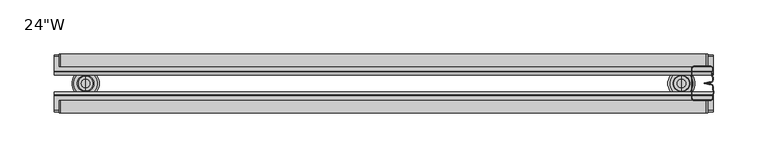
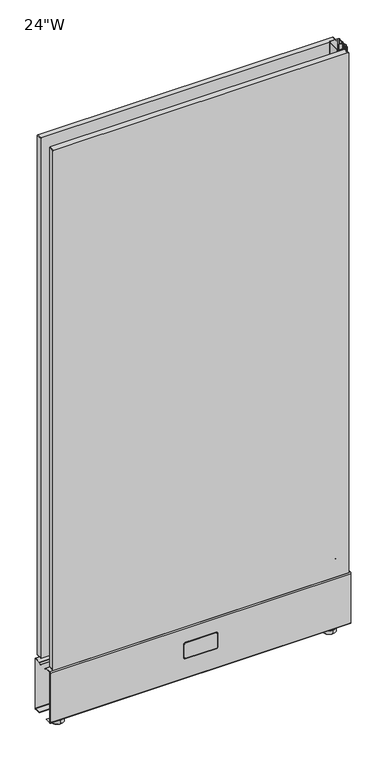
"""IFC4 building model written with IfcOpenShell, lengths in millimetres: furniture geometry."""

from ifc_helpers import new_model, si_unit, point, frame, frame_2d, origin, place, context, project, spatial, polyline, circle_curve, trimmed, segment, composite_curve, outline, extrude, source, transform, mapped, element, save
from ifc_brep_helpers import plane_surface, cylinder_surface, revolved_surface, advanced_brep


def furniture_e1f2ad61(model_context):
    return source(origin(), model_context, "Body", "SolidModel", [
        extrude(outline(composite_curve([segment(trimmed(circle_curve(frame_2d((133.8403843, 603.5740343)), 1.2634657), [point((132.5769186, 603.5740343))], [point((133.8403843, 604.8375))], False, "CARTESIAN"), True, "CONTINUOUS"), segment(polyline([(133.8403843, 604.8375), (1245.2602242, 604.8375)]), True, "CONTINUOUS"), segment(trimmed(circle_curve(frame_2d((1245.2602242, 602.9941949)), 1.8433051), [point((1245.2602242, 604.8375))], [point((1247.1035294, 602.9941949))], False, "CARTESIAN"), True, "CONTINUOUS"), segment(polyline([(1247.1035294, 602.9941949), (1247.1035294, 6.3370556)]), True, "CONTINUOUS"), segment(trimmed(circle_curve(frame_2d((1245.4908737, 6.3370556)), 1.6126556), [point((1247.1035294, 6.3370556))], [point((1245.4908737, 4.7243999))], False, "CARTESIAN"), True, "CONTINUOUS"), segment(polyline([(1245.4908737, 4.7243999), (134.0795596, 4.7243999)]), True, "CONTINUOUS"), segment(trimmed(circle_curve(frame_2d((134.0795596, 6.227041)), 1.5026411), [point((134.0795596, 4.7243999))], [point((132.5769186, 6.227041))], False, "CARTESIAN"), True, "CONTINUOUS"), segment(polyline([(132.5769186, 6.227041), (132.5769186, 603.5740343)]), True, "CONTINUOUS")], self_intersect=False)), frame((0.0, -55.9658582, 0.0), z_axis=(0.0, 1.0, 0.0), x_axis=(0.0, 0.0, 1.0)), (0.0, 0.0, 1.0), 11.5108241),
        extrude(outline(composite_curve([segment(trimmed(circle_curve(frame_2d((133.8403843, 603.5740343)), 1.2634657), [point((132.5769186, 603.5740343))], [point((133.8403843, 604.8375))], False, "CARTESIAN"), True, "CONTINUOUS"), segment(polyline([(133.8403843, 604.8375), (1245.2602242, 604.8375)]), True, "CONTINUOUS"), segment(trimmed(circle_curve(frame_2d((1245.2602242, 602.9941949)), 1.8433051), [point((1245.2602242, 604.8375))], [point((1247.1035294, 602.9941949))], False, "CARTESIAN"), True, "CONTINUOUS"), segment(polyline([(1247.1035294, 602.9941949), (1247.1035294, 6.3370556)]), True, "CONTINUOUS"), segment(trimmed(circle_curve(frame_2d((1245.4908737, 6.3370556)), 1.6126556), [point((1247.1035294, 6.3370556))], [point((1245.4908737, 4.7243999))], False, "CARTESIAN"), True, "CONTINUOUS"), segment(polyline([(1245.4908737, 4.7243999), (134.0795596, 4.7243999)]), True, "CONTINUOUS"), segment(trimmed(circle_curve(frame_2d((134.0795596, 6.227041)), 1.5026411), [point((134.0795596, 4.7243999))], [point((132.5769186, 6.227041))], False, "CARTESIAN"), True, "CONTINUOUS"), segment(polyline([(132.5769186, 6.227041), (132.5769186, 603.5740343)]), True, "CONTINUOUS")], self_intersect=False)), frame((0.0, -12.8443241, 0.0), z_axis=(0.0, 1.0, 0.0), x_axis=(0.0, 0.0, 1.0)), (0.0, 0.0, 1.0), 11.5108241),
        extrude(outline(composite_curve([segment(trimmed(circle_curve(frame_2d((94.8528373, 273.6849691)), 3.175), [point((98.0278373, 273.6849691))], [point((94.8528373, 270.5099691))], False, "CARTESIAN"), True, "CONTINUOUS"), segment(polyline([(94.8528373, 270.5099691), (66.2778343, 270.5099691)]), True, "CONTINUOUS"), segment(trimmed(circle_curve(frame_2d((66.2778343, 273.6849691)), 3.175), [point((66.2778343, 270.5099691))], [point((63.1028343, 273.6849691))], False, "CARTESIAN"), True, "CONTINUOUS"), segment(polyline([(63.1028343, 273.6849691), (63.1028343, 335.9149945)]), True, "CONTINUOUS"), segment(trimmed(circle_curve(frame_2d((66.2778343, 335.9149945)), 3.175), [point((63.1028343, 335.9149945))], [point((66.2778343, 339.0899945))], False, "CARTESIAN"), True, "CONTINUOUS"), segment(polyline([(66.2778343, 339.0899945), (94.8528373, 339.0899945)]), True, "CONTINUOUS"), segment(trimmed(circle_curve(frame_2d((94.8528373, 335.9149945)), 3.175), [point((94.8528373, 339.0899945))], [point((98.0278373, 335.9149945))], False, "CARTESIAN"), True, "CONTINUOUS"), segment(polyline([(98.0278373, 335.9149945), (98.0278373, 273.6849691)]), True, "CONTINUOUS")], self_intersect=False), holes=[composite_curve([segment(trimmed(circle_curve(frame_2d((66.2778343, 335.9149945)), 2.38125), [point((66.2778343, 338.2962445))], [point((63.8965843, 335.9149945))], True, "CARTESIAN"), True, "CONTINUOUS"), segment(polyline([(63.8965843, 335.9149945), (63.8965843, 273.6849691)]), True, "CONTINUOUS"), segment(trimmed(circle_curve(frame_2d((66.2778343, 273.6849691)), 2.38125), [point((63.8965843, 273.6849691))], [point((66.2778343, 271.3037191))], True, "CARTESIAN"), True, "CONTINUOUS"), segment(polyline([(66.2778343, 271.3037191), (94.8528373, 271.3037191)]), True, "CONTINUOUS"), segment(trimmed(circle_curve(frame_2d((94.8528373, 273.6849691)), 2.38125), [point((94.8528373, 271.3037191))], [point((97.2340873, 273.6849691))], True, "CARTESIAN"), True, "CONTINUOUS"), segment(polyline([(97.2340873, 273.6849691), (97.2340873, 335.9149945)]), True, "CONTINUOUS"), segment(trimmed(circle_curve(frame_2d((94.8528373, 335.9149945)), 2.38125), [point((97.2340873, 335.9149945))], [point((94.8528373, 338.2962445))], True, "CARTESIAN"), True, "CONTINUOUS"), segment(polyline([(94.8528373, 338.2962445), (66.2778343, 338.2962445)]), True, "CONTINUOUS")], self_intersect=False)]), frame((0.0, -55.848252, 0.0), z_axis=(0.0, 1.0, 0.0), x_axis=(0.0, 0.0, 1.0)), (0.0, 0.0, 1.0), 0.79375),
        extrude(outline(composite_curve([segment(trimmed(circle_curve(frame_2d((94.8528373, 335.9149945)), 1.984375), [point((94.8528373, 337.8993695))], [point((96.8372123, 335.9149945))], False, "CARTESIAN"), True, "CONTINUOUS"), segment(polyline([(96.8372123, 335.9149945), (96.8372123, 273.6849691)]), True, "CONTINUOUS"), segment(trimmed(circle_curve(frame_2d((94.8528373, 273.6849691)), 1.984375), [point((96.8372123, 273.6849691))], [point((94.8528373, 271.7005941))], False, "CARTESIAN"), True, "CONTINUOUS"), segment(polyline([(94.8528373, 271.7005941), (66.2778343, 271.7005941)]), True, "CONTINUOUS"), segment(trimmed(circle_curve(frame_2d((66.2778343, 273.6849691)), 1.984375), [point((66.2778343, 271.7005941))], [point((64.2934593, 273.6849691))], False, "CARTESIAN"), True, "CONTINUOUS"), segment(polyline([(64.2934593, 273.6849691), (64.2934593, 335.9149945)]), True, "CONTINUOUS"), segment(trimmed(circle_curve(frame_2d((66.2778343, 335.9149945)), 1.984375), [point((64.2934593, 335.9149945))], [point((66.2778343, 337.8993695))], False, "CARTESIAN"), True, "CONTINUOUS"), segment(polyline([(66.2778343, 337.8993695), (94.8528373, 337.8993695)]), True, "CONTINUOUS")], self_intersect=False)), frame((0.0, -55.848252, 0.0), z_axis=(0.0, 1.0, 0.0), x_axis=(0.0, 0.0, 1.0)), (0.0, 0.0, 1.0), 0.79375),
        extrude(outline(composite_curve([segment(trimmed(circle_curve(frame_2d((94.8528373, 273.6849691)), 3.175), [point((98.0278373, 273.6849691))], [point((94.8528373, 270.5099691))], False, "CARTESIAN"), True, "CONTINUOUS"), segment(polyline([(94.8528373, 270.5099691), (66.2778343, 270.5099691)]), True, "CONTINUOUS"), segment(trimmed(circle_curve(frame_2d((66.2778343, 273.6849691)), 3.175), [point((66.2778343, 270.5099691))], [point((63.1028343, 273.6849691))], False, "CARTESIAN"), True, "CONTINUOUS"), segment(polyline([(63.1028343, 273.6849691), (63.1028343, 335.9149945)]), True, "CONTINUOUS"), segment(trimmed(circle_curve(frame_2d((66.2778343, 335.9149945)), 3.175), [point((63.1028343, 335.9149945))], [point((66.2778343, 339.0899945))], False, "CARTESIAN"), True, "CONTINUOUS"), segment(polyline([(66.2778343, 339.0899945), (94.8528373, 339.0899945)]), True, "CONTINUOUS"), segment(trimmed(circle_curve(frame_2d((94.8528373, 335.9149945)), 3.175), [point((94.8528373, 339.0899945))], [point((98.0278373, 335.9149945))], False, "CARTESIAN"), True, "CONTINUOUS"), segment(polyline([(98.0278373, 335.9149945), (98.0278373, 273.6849691)]), True, "CONTINUOUS")], self_intersect=False), holes=[composite_curve([segment(trimmed(circle_curve(frame_2d((66.2778343, 335.9149945)), 2.38125), [point((66.2778343, 338.2962445))], [point((63.8965843, 335.9149945))], True, "CARTESIAN"), True, "CONTINUOUS"), segment(polyline([(63.8965843, 335.9149945), (63.8965843, 273.6849691)]), True, "CONTINUOUS"), segment(trimmed(circle_curve(frame_2d((66.2778343, 273.6849691)), 2.38125), [point((63.8965843, 273.6849691))], [point((66.2778343, 271.3037191))], True, "CARTESIAN"), True, "CONTINUOUS"), segment(polyline([(66.2778343, 271.3037191), (94.8528373, 271.3037191)]), True, "CONTINUOUS"), segment(trimmed(circle_curve(frame_2d((94.8528373, 273.6849691)), 2.38125), [point((94.8528373, 271.3037191))], [point((97.2340873, 273.6849691))], True, "CARTESIAN"), True, "CONTINUOUS"), segment(polyline([(97.2340873, 273.6849691), (97.2340873, 335.9149945)]), True, "CONTINUOUS"), segment(trimmed(circle_curve(frame_2d((94.8528373, 335.9149945)), 2.38125), [point((97.2340873, 335.9149945))], [point((94.8528373, 338.2962445))], True, "CARTESIAN"), True, "CONTINUOUS"), segment(polyline([(94.8528373, 338.2962445), (66.2778343, 338.2962445)]), True, "CONTINUOUS")], self_intersect=False)]), frame((0.0, -2.08915, 0.0), z_axis=(0.0, 1.0, 0.0), x_axis=(0.0, 0.0, 1.0)), (0.0, 0.0, 1.0), 0.79375),
        extrude(outline(composite_curve([segment(trimmed(circle_curve(frame_2d((94.8528373, 335.9149945)), 1.984375), [point((94.8528373, 337.8993695))], [point((96.8372123, 335.9149945))], False, "CARTESIAN"), True, "CONTINUOUS"), segment(polyline([(96.8372123, 335.9149945), (96.8372123, 273.6849691)]), True, "CONTINUOUS"), segment(trimmed(circle_curve(frame_2d((94.8528373, 273.6849691)), 1.984375), [point((96.8372123, 273.6849691))], [point((94.8528373, 271.7005941))], False, "CARTESIAN"), True, "CONTINUOUS"), segment(polyline([(94.8528373, 271.7005941), (66.2778343, 271.7005941)]), True, "CONTINUOUS"), segment(trimmed(circle_curve(frame_2d((66.2778343, 273.6849691)), 1.984375), [point((66.2778343, 271.7005941))], [point((64.2934593, 273.6849691))], False, "CARTESIAN"), True, "CONTINUOUS"), segment(polyline([(64.2934593, 273.6849691), (64.2934593, 335.9149945)]), True, "CONTINUOUS"), segment(trimmed(circle_curve(frame_2d((66.2778343, 335.9149945)), 1.984375), [point((64.2934593, 335.9149945))], [point((66.2778343, 337.8993695))], False, "CARTESIAN"), True, "CONTINUOUS"), segment(polyline([(66.2778343, 337.8993695), (94.8528373, 337.8993695)]), True, "CONTINUOUS")], self_intersect=False)), frame((0.0, -2.08915, 0.0), z_axis=(0.0, 1.0, 0.0), x_axis=(0.0, 0.0, 1.0)), (0.0, 0.0, 1.0), 0.79375),
        advanced_brep(
        [(580.3900097, -41.1455956, 7.9264178), (580.3900097, -39.5580956, 9.5139178), (580.3900097, -17.5919044, 9.5139178), (580.3900097, -16.0044044, 7.9264178), (580.3900097, -41.1455956, 0.79375), (580.3900097, -16.0044044, 0.79375), (580.3900097, -40.3518456, 0.0), (580.3900097, -16.7981544, 0.0), (580.3900097, -28.575, 0.0), (580.3900097, -35.6235001, 11.2919173), (580.3900097, -32.5461524, 11.2919173), (580.3900097, -24.6038476, 11.2919173), (580.3900097, -21.5264999, 11.2919173), (580.3900097, -36.2584995, 10.6569179), (580.3900097, -20.8915005, 10.6569179), (580.3900097, -36.2584995, 9.5139178), (580.3900097, -20.8915005, 9.5139178), (580.3900097, -32.5461524, 27.1248686), (580.3900097, -28.575, 27.1248686), (580.3900097, -24.6038476, 27.1248686)],
        [
            (0, 1),
            (1, 2, circle_curve(frame((580.3900097, -28.575, 9.5139178), z_axis=(0.0, 0.0, -1.0), x_axis=(0.0, 1.0, 0.0)), 10.9830956)),
            (2, 3),
            (3, 0, circle_curve(frame((580.3900097, -28.575, 7.9264178), z_axis=(0.0, 0.0, 1.0), x_axis=(0.0, 1.0, 0.0)), 12.5705956)),
            (2, 1, circle_curve(frame((580.3900097, -28.575, 9.5139178), z_axis=(0.0, 0.0, -1.0), x_axis=(0.0, 1.0, 0.0)), 10.9830956)),
            (0, 3, circle_curve(frame((580.3900097, -28.575, 7.9264178), z_axis=(0.0, 0.0, 1.0), x_axis=(0.0, 1.0, 0.0)), 12.5705956)),
            (4, 0),
            (3, 5),
            (5, 4, circle_curve(frame((580.3900097, -28.575, 0.79375), z_axis=(0.0, 0.0, 1.0), x_axis=(0.0, 1.0, 0.0)), 12.5705956)),
            (4, 5, circle_curve(frame((580.3900097, -28.575, 0.79375), z_axis=(0.0, 0.0, 1.0), x_axis=(0.0, 1.0, 0.0)), 12.5705956)),
            (6, 4),
            (5, 7),
            (7, 6, circle_curve(frame((580.3900097, -28.575, 0.0), z_axis=(0.0, 0.0, 1.0), x_axis=(0.0, 1.0, 0.0)), 11.7768456)),
            (6, 7, circle_curve(frame((580.3900097, -28.575, 0.0), z_axis=(0.0, 0.0, 1.0), x_axis=(0.0, 1.0, 0.0)), 11.7768456)),
            (8, 6),
            (7, 8),
            (9, 10),
            (10, 11, circle_curve(frame((580.3900097, -28.575, 11.2919173), z_axis=(0.0, 0.0, -1.0), x_axis=(0.0, 1.0, 0.0)), 3.9711524)),
            (11, 12),
            (12, 9, circle_curve(frame((580.3900097, -28.575, 11.2919173), z_axis=(0.0, 0.0, 1.0), x_axis=(0.0, 1.0, 0.0)), 7.0485001)),
            (11, 10, circle_curve(frame((580.3900097, -28.575, 11.2919173), z_axis=(0.0, 0.0, -1.0), x_axis=(0.0, 1.0, 0.0)), 3.9711524)),
            (9, 12, circle_curve(frame((580.3900097, -28.575, 11.2919173), z_axis=(0.0, 0.0, 1.0), x_axis=(0.0, 1.0, 0.0)), 7.0485001)),
            (13, 9),
            (12, 14),
            (14, 13, circle_curve(frame((580.3900097, -28.575, 10.6569179), z_axis=(0.0, 0.0, 1.0), x_axis=(0.0, 1.0, 0.0)), 7.6834995)),
            (13, 14, circle_curve(frame((580.3900097, -28.575, 10.6569179), z_axis=(0.0, 0.0, 1.0), x_axis=(0.0, 1.0, 0.0)), 7.6834995)),
            (15, 13),
            (14, 16),
            (16, 15, circle_curve(frame((580.3900097, -28.575, 9.5139178), z_axis=(0.0, 0.0, 1.0), x_axis=(0.0, 1.0, 0.0)), 7.6834995)),
            (15, 16, circle_curve(frame((580.3900097, -28.575, 9.5139178), z_axis=(0.0, 0.0, 1.0), x_axis=(0.0, 1.0, 0.0)), 7.6834995)),
            (1, 15),
            (16, 2),
            (17, 18),
            (18, 19),
            (19, 17, circle_curve(frame((580.3900097, -28.575, 27.1248686), z_axis=(0.0, 0.0, 1.0), x_axis=(0.0, 1.0, 0.0)), 3.9711524)),
            (17, 19, circle_curve(frame((580.3900097, -28.575, 27.1248686), z_axis=(0.0, 0.0, 1.0), x_axis=(0.0, 1.0, 0.0)), 3.9711524)),
            (10, 17),
            (19, 11),
        ],
        [
            revolved_surface(polyline([(580.3900097, -17.5919044, 9.5139178), (580.3900097, -16.0044044, 7.9264178)]), (580.3900097, -28.575, 0.0), (0.0, 0.0, -1.0)),
            cylinder_surface(frame((580.3900097, -28.575, 0.0), z_axis=(0.0, 0.0, -1.0), x_axis=(0.0, 1.0, 0.0)), 12.5705956),
            revolved_surface(polyline([(580.3900097, -16.0044044, 0.79375), (580.3900097, -16.7981544, 0.0)]), (580.3900097, -28.575, 0.0), (0.0, 0.0, -1.0)),
            plane_surface(frame((580.3900097, -28.575, 0.0), z_axis=(0.0, 0.0, -1.0), x_axis=(0.0, 1.0, 0.0))),
            plane_surface(frame((580.3900097, -28.575, 11.2919173), z_axis=(0.0, 0.0, 1.0), x_axis=(0.0, 1.0, 0.0))),
            revolved_surface(polyline([(580.3900097, -21.5264999, 11.2919173), (580.3900097, -20.8915005, 10.6569179)]), (580.3900097, -28.575, 0.0), (0.0, 0.0, -1.0)),
            cylinder_surface(frame((580.3900097, -28.575, 0.0), z_axis=(0.0, 0.0, -1.0), x_axis=(0.0, 1.0, 0.0)), 7.6834995),
            plane_surface(frame((580.3900097, -28.575, 9.5139178), z_axis=(0.0, 0.0, 1.0), x_axis=(0.0, 1.0, 0.0))),
            plane_surface(frame((580.3900097, -28.575, 27.1248686), z_axis=(0.0, 0.0, 1.0), x_axis=(0.0, 1.0, 0.0))),
            cylinder_surface(frame((580.3900097, -28.575, 0.0), z_axis=(0.0, 0.0, -1.0), x_axis=(0.0, 1.0, 0.0)), 3.9711524),
        ],
        [
            (0, [[1, 2, 3, 4]]),
            (0, [[-3, 5, -1, 6]]),
            (1, [[7, -4, 8, 9]]),
            (1, [[-8, -6, -7, 10]]),
            (2, [[11, -9, 12, 13]]),
            (2, [[-12, -10, -11, 14]]),
            (3, [[15, -13, 16]]),
            (3, [[-16, -14, -15]]),
            (4, [[17, 18, 19, 20]]),
            (4, [[-19, 21, -17, 22]]),
            (5, [[23, -20, 24, 25]]),
            (5, [[-24, -22, -23, 26]]),
            (6, [[27, -25, 28, 29]]),
            (6, [[-28, -26, -27, 30]]),
            (7, [[31, -29, 32, -2]]),
            (7, [[-32, -30, -31, -5]]),
            (8, [[33, 34, 35]]),
            (8, [[-34, -33, 36]]),
            (9, [[37, -35, 38, -18]]),
            (9, [[-38, -36, -37, -21]]),
        ],
    ),
        advanced_brep(
        [(29.2099994, -36.2584995, 9.5139178), (29.2099994, -39.5580956, 9.5139178), (29.2099994, -17.5919044, 9.5139178), (29.2099994, -20.8915005, 9.5139178), (29.2099994, -36.2584995, 10.6569179), (29.2099994, -20.8915005, 10.6569179), (29.2099994, -35.6235001, 11.2919173), (29.2099994, -21.5264999, 11.2919173), (29.2099994, -32.5461524, 11.2919173), (29.2099994, -24.6038476, 11.2919173), (29.2099994, -40.3518456, 0.0), (29.2099994, -28.575, 0.0), (29.2099994, -16.7981544, 0.0), (29.2099994, -41.1455956, 0.79375), (29.2099994, -16.0044044, 0.79375), (29.2099994, -41.1455956, 7.9264178), (29.2099994, -16.0044044, 7.9264178), (29.2099994, -32.5461524, 27.1248686), (29.2099994, -24.6038476, 27.1248686), (29.2099994, -28.575, 27.1248686)],
        [
            (0, 1),
            (1, 2, circle_curve(frame((29.2099994, -28.575, 9.5139178), z_axis=(0.0, 0.0, 1.0), x_axis=(0.0, 1.0, 0.0)), 10.9830956)),
            (2, 3),
            (3, 0, circle_curve(frame((29.2099994, -28.575, 9.5139178), z_axis=(0.0, 0.0, -1.0), x_axis=(0.0, 1.0, 0.0)), 7.6834995)),
            (2, 1, circle_curve(frame((29.2099994, -28.575, 9.5139178), z_axis=(0.0, 0.0, 1.0), x_axis=(0.0, 1.0, 0.0)), 10.9830956)),
            (0, 3, circle_curve(frame((29.2099994, -28.575, 9.5139178), z_axis=(0.0, 0.0, -1.0), x_axis=(0.0, 1.0, 0.0)), 7.6834995)),
            (4, 0),
            (3, 5),
            (5, 4, circle_curve(frame((29.2099994, -28.575, 10.6569179), z_axis=(0.0, 0.0, -1.0), x_axis=(0.0, 1.0, 0.0)), 7.6834995)),
            (4, 5, circle_curve(frame((29.2099994, -28.575, 10.6569179), z_axis=(0.0, 0.0, -1.0), x_axis=(0.0, 1.0, 0.0)), 7.6834995)),
            (6, 4),
            (5, 7),
            (7, 6, circle_curve(frame((29.2099994, -28.575, 11.2919173), z_axis=(0.0, 0.0, -1.0), x_axis=(0.0, 1.0, 0.0)), 7.0485001)),
            (6, 7, circle_curve(frame((29.2099994, -28.575, 11.2919173), z_axis=(0.0, 0.0, -1.0), x_axis=(0.0, 1.0, 0.0)), 7.0485001)),
            (8, 6),
            (7, 9),
            (9, 8, circle_curve(frame((29.2099994, -28.575, 11.2919173), z_axis=(0.0, 0.0, -1.0), x_axis=(0.0, 1.0, 0.0)), 3.9711524)),
            (8, 9, circle_curve(frame((29.2099994, -28.575, 11.2919173), z_axis=(0.0, 0.0, -1.0), x_axis=(0.0, 1.0, 0.0)), 3.9711524)),
            (10, 11),
            (11, 12),
            (12, 10, circle_curve(frame((29.2099994, -28.575, 0.0), z_axis=(0.0, 0.0, -1.0), x_axis=(0.0, 1.0, 0.0)), 11.7768456)),
            (10, 12, circle_curve(frame((29.2099994, -28.575, 0.0), z_axis=(0.0, 0.0, -1.0), x_axis=(0.0, 1.0, 0.0)), 11.7768456)),
            (13, 10),
            (12, 14),
            (14, 13, circle_curve(frame((29.2099994, -28.575, 0.79375), z_axis=(0.0, 0.0, -1.0), x_axis=(0.0, 1.0, 0.0)), 12.5705956)),
            (13, 14, circle_curve(frame((29.2099994, -28.575, 0.79375), z_axis=(0.0, 0.0, -1.0), x_axis=(0.0, 1.0, 0.0)), 12.5705956)),
            (15, 13),
            (14, 16),
            (16, 15, circle_curve(frame((29.2099994, -28.575, 7.9264178), z_axis=(0.0, 0.0, -1.0), x_axis=(0.0, 1.0, 0.0)), 12.5705956)),
            (15, 16, circle_curve(frame((29.2099994, -28.575, 7.9264178), z_axis=(0.0, 0.0, -1.0), x_axis=(0.0, 1.0, 0.0)), 12.5705956)),
            (1, 15),
            (16, 2),
            (17, 8),
            (9, 18),
            (18, 17, circle_curve(frame((29.2099994, -28.575, 27.1248686), z_axis=(0.0, 0.0, -1.0), x_axis=(0.0, 1.0, 0.0)), 3.9711524)),
            (17, 18, circle_curve(frame((29.2099994, -28.575, 27.1248686), z_axis=(0.0, 0.0, -1.0), x_axis=(0.0, 1.0, 0.0)), 3.9711524)),
            (19, 17),
            (18, 19),
        ],
        [
            plane_surface(frame((29.2099994, -28.575, 9.5139178), z_axis=(0.0, 0.0, 1.0), x_axis=(0.0, 1.0, 0.0))),
            cylinder_surface(frame((29.2099994, -28.575, 44.45), z_axis=(0.0, 0.0, 1.0), x_axis=(0.0, 1.0, 0.0)), 7.6834995),
            revolved_surface(polyline([(29.2099994, -20.8915005, 10.6569179), (29.2099994, -21.5264999, 11.2919173)]), (29.2099994, -28.575, 44.45), (0.0, 0.0, 1.0)),
            plane_surface(frame((29.2099994, -28.575, 11.2919173), z_axis=(0.0, 0.0, 1.0), x_axis=(0.0, 1.0, 0.0))),
            plane_surface(frame((29.2099994, -28.575, 0.0), z_axis=(0.0, 0.0, -1.0), x_axis=(0.0, 1.0, 0.0))),
            revolved_surface(polyline([(29.2099994, -16.7981544, 0.0), (29.2099994, -16.0044044, 0.79375)]), (29.2099994, -28.575, 44.45), (0.0, 0.0, 1.0)),
            cylinder_surface(frame((29.2099994, -28.575, 44.45), z_axis=(0.0, 0.0, 1.0), x_axis=(0.0, 1.0, 0.0)), 12.5705956),
            revolved_surface(polyline([(29.2099994, -16.0044044, 7.9264178), (29.2099994, -17.5919044, 9.5139178)]), (29.2099994, -28.575, 44.45), (0.0, 0.0, 1.0)),
            cylinder_surface(frame((29.2099994, -28.575, 44.45), z_axis=(0.0, 0.0, 1.0), x_axis=(0.0, 1.0, 0.0)), 3.9711524),
            plane_surface(frame((29.2099994, -28.575, 27.1248686), z_axis=(0.0, 0.0, 1.0), x_axis=(0.0, 1.0, 0.0))),
        ],
        [
            (0, [[1, 2, 3, 4]]),
            (0, [[-3, 5, -1, 6]]),
            (1, [[7, -4, 8, 9]]),
            (1, [[-8, -6, -7, 10]]),
            (2, [[11, -9, 12, 13]]),
            (2, [[-12, -10, -11, 14]]),
            (3, [[15, -13, 16, 17]]),
            (3, [[-16, -14, -15, 18]]),
            (4, [[19, 20, 21]]),
            (4, [[-20, -19, 22]]),
            (5, [[23, -21, 24, 25]]),
            (5, [[-24, -22, -23, 26]]),
            (6, [[27, -25, 28, 29]]),
            (6, [[-28, -26, -27, 30]]),
            (7, [[31, -29, 32, -2]]),
            (7, [[-32, -30, -31, -5]]),
            (8, [[33, -17, 34, 35]]),
            (8, [[-34, -18, -33, 36]]),
            (9, [[37, -35, 38]]),
            (9, [[-38, -36, -37]]),
        ],
    ),
        extrude(outline(composite_curve([segment(polyline([(-2.08915, 127.0651214), (-2.08915, 21.128067)]), True, "CONTINUOUS"), segment(trimmed(circle_curve(frame_2d((-3.67665, 21.128067)), 1.5875), [point((-2.08915, 21.128067))], [point((-3.67665, 19.540567))], False, "CARTESIAN"), True, "CONTINUOUS"), segment(polyline([(-3.67665, 19.540567), (-16.0826734, 19.540567), (-16.0826734, 20.334317), (-3.67665, 20.334317)]), True, "CONTINUOUS"), segment(trimmed(circle_curve(frame_2d((-3.67665, 21.128067)), 0.79375), [point((-3.67665, 20.334317))], [point((-2.8829, 21.128067))], True, "CARTESIAN"), True, "CONTINUOUS"), segment(polyline([(-2.8829, 21.128067), (-2.8829, 127.0651214)]), True, "CONTINUOUS"), segment(trimmed(circle_curve(frame_2d((-3.67665, 127.0651214)), 0.79375), [point((-2.8829, 127.0651214))], [point((-3.67665, 127.8588714))], True, "CARTESIAN"), True, "CONTINUOUS"), segment(polyline([(-3.67665, 127.8588714), (-16.6236514, 127.8588714)]), True, "CONTINUOUS"), segment(trimmed(circle_curve(frame_2d((-16.6236514, 126.2713714)), 1.5875), [point((-16.6236514, 127.8588714))], [point((-17.7656046, 127.3741402))], True, "CARTESIAN"), True, "CONTINUOUS"), segment(polyline([(-17.7656046, 127.3741402), (-20.2857127, 124.7644857), (-20.8470642, 125.3258372), (-18.1058757, 128.1644277)]), True, "CONTINUOUS"), segment(trimmed(circle_curve(frame_2d((-16.9557654, 127.0537817)), 1.5988397), [point((-18.1058757, 128.1644277))], [point((-16.9557654, 128.6526214))], False, "CARTESIAN"), True, "CONTINUOUS"), segment(polyline([(-16.9557654, 128.6526214), (-3.67665, 128.6526214)]), True, "CONTINUOUS"), segment(trimmed(circle_curve(frame_2d((-3.67665, 127.0651214)), 1.5875), [point((-3.67665, 128.6526214))], [point((-2.08915, 127.0651214))], False, "CARTESIAN"), True, "CONTINUOUS")], self_intersect=False)), frame((0.0, 0.0, 0.0), z_axis=(1.0, 0.0, 0.0), x_axis=(0.0, 1.0, 0.0)), (0.0, 0.0, 1.0), 609.6),
        extrude(outline(composite_curve([segment(trimmed(circle_curve(frame_2d((-53.467002, 127.8488945)), 1.5875), [point((-55.054502, 127.8488945))], [point((-53.467002, 129.4363945))], False, "CARTESIAN"), True, "CONTINUOUS"), segment(polyline([(-53.467002, 129.4363945), (-40.1878866, 129.4363945)]), True, "CONTINUOUS"), segment(trimmed(circle_curve(frame_2d((-40.1878866, 127.8375548)), 1.5988397), [point((-40.1878866, 129.4363945))], [point((-39.0377763, 128.9482008))], False, "CARTESIAN"), True, "CONTINUOUS"), segment(polyline([(-39.0377763, 128.9482008), (-36.2965878, 126.1096103), (-36.8579393, 125.5482588), (-39.3780474, 128.1579133)]), True, "CONTINUOUS"), segment(trimmed(circle_curve(frame_2d((-40.5200006, 127.0551445)), 1.5875), [point((-39.3780474, 128.1579133))], [point((-40.5200006, 128.6426445))], True, "CARTESIAN"), True, "CONTINUOUS"), segment(polyline([(-40.5200006, 128.6426445), (-53.467002, 128.6426445)]), True, "CONTINUOUS"), segment(trimmed(circle_curve(frame_2d((-53.467002, 127.8488945)), 0.79375), [point((-53.467002, 128.6426445))], [point((-54.260752, 127.8488945))], True, "CARTESIAN"), True, "CONTINUOUS"), segment(polyline([(-54.260752, 127.8488945), (-54.260752, 21.9118401)]), True, "CONTINUOUS"), segment(trimmed(circle_curve(frame_2d((-53.467002, 21.9118401)), 0.79375), [point((-54.260752, 21.9118401))], [point((-53.467002, 21.1180901))], True, "CARTESIAN"), True, "CONTINUOUS"), segment(polyline([(-53.467002, 21.1180901), (-41.0609786, 21.1180901), (-41.0609786, 20.3243401), (-53.467002, 20.3243401)]), True, "CONTINUOUS"), segment(trimmed(circle_curve(frame_2d((-53.467002, 21.9118401)), 1.5875), [point((-53.467002, 20.3243401))], [point((-55.054502, 21.9118401))], False, "CARTESIAN"), True, "CONTINUOUS"), segment(polyline([(-55.054502, 21.9118401), (-55.054502, 127.8488945)]), True, "CONTINUOUS")], self_intersect=False)), frame((0.0, 0.0, 0.0), z_axis=(1.0, 0.0, 0.0), x_axis=(0.0, 1.0, 0.0)), (0.0, 0.0, 1.0), 609.6),
        advanced_brep(
        [(592.1446565, -44.4550341, 1249.3625), (607.1941558, -44.4550341, 1249.3625), (609.5754058, -42.0737841, 1249.3625), (609.5754058, -39.2502728, 1249.3625), (609.6, -34.4414889, 1249.3625), (609.6, -31.7154405, 1249.3625), (607.6169242, -29.3584137, 1249.3625), (603.1844003, -28.5888725, 1249.3625), (607.6169242, -27.8193313, 1249.3625), (609.6, -25.4623045, 1249.3625), (609.6, -22.7944174, 1249.3625), (609.5754058, -17.9274722, 1249.3625), (609.5754058, -15.1039609, 1249.3625), (607.1941558, -12.7227109, 1249.3625), (592.1623315, -12.705036, 1249.3625), (589.7634065, -15.1039609, 1249.3625), (589.7634065, -42.0737841, 1249.3625), (608.7816558, -17.6524355, 1249.3625), (608.80625, -23.0737131, 1249.3625), (608.80625, -25.4623045, 1249.3625), (607.4811503, -27.0372798, 1249.3625), (600.8642223, -28.1860608, 1249.3625), (600.8642223, -28.9916843, 1249.3625), (607.4811503, -30.1404653, 1249.3625), (608.80625, -31.7154405, 1249.3625), (608.80625, -34.7471082, 1249.3625), (608.7816558, -38.9396594, 1249.3625), (608.7816558, -42.0737841, 1249.3625), (607.1941558, -43.6612841, 1249.3625), (592.1446565, -43.6612841, 1249.3625), (590.5571565, -42.0737841, 1249.3625), (590.5571565, -15.1039609, 1249.3625), (592.1623315, -13.498786, 1249.3625), (607.1370057, -13.498786, 1249.3625), (608.7816558, -15.1039609, 1249.3625), (592.1446565, -44.4550341, 130.175), (589.7634065, -42.0737841, 130.175), (589.7634065, -15.1039609, 130.175), (592.1623315, -12.705036, 130.175), (607.1370057, -12.705036, 130.175), (609.5754058, -15.1039609, 130.175), (609.5754058, -17.9274722, 130.175), (609.6, -22.7944174, 130.175), (609.6, -25.4623045, 130.175), (607.6169242, -27.8193313, 130.175), (603.1844003, -28.5888725, 130.175), (607.6169242, -29.3584138, 130.175), (609.6, -31.7154405, 130.175), (609.6, -34.4414889, 130.175), (609.5754058, -39.2502728, 130.175), (609.5754058, -42.0737841, 130.175), (607.1941558, -44.4550341, 130.175), (608.7816558, -17.6524355, 130.175), (608.7816558, -15.1039609, 130.175), (607.1941558, -13.5164609, 130.175), (592.1623315, -13.498786, 130.175), (590.5571565, -15.1039609, 130.175), (590.5571565, -42.0737841, 130.175), (592.1446565, -43.6612841, 130.175), (607.1941558, -43.6612841, 130.175), (608.7816558, -42.0737841, 130.175), (608.7816558, -38.9396594, 130.175), (608.80625, -34.7471082, 130.175), (608.80625, -31.7154405, 130.175), (607.4811503, -30.1404652, 130.175), (600.8642223, -28.9916843, 130.175), (600.8642223, -28.1860608, 130.175), (607.4811503, -27.0372798, 130.175), (608.80625, -25.4623045, 130.175), (608.80625, -23.0737131, 130.175)],
        [
            (0, 1),
            (1, 2, circle_curve(frame((607.1941558, -42.0737841, 1249.3625), z_axis=(0.0, 0.0, 1.0), x_axis=(-1.0, 0.0, 0.0)), 2.38125)),
            (2, 3),
            (3, 4, circle_curve(frame((606.7153946, -36.8311906, 1249.3625), z_axis=(0.0, 0.0, 1.0), x_axis=(-1.0, 0.0, 0.0)), 3.7458807)),
            (4, 5),
            (5, 6, circle_curve(frame((607.207715, -31.7154405, 1249.3625), z_axis=(0.0, 0.0, 1.0), x_axis=(-1.0, 0.0, 0.0)), 2.392285)),
            (6, 7),
            (7, 8),
            (8, 9, circle_curve(frame((607.207715, -25.4623045, 1249.3625), z_axis=(0.0, 0.0, 1.0), x_axis=(-1.0, 0.0, 0.0)), 2.392285)),
            (9, 10),
            (10, 11, circle_curve(frame((612.4354169, -20.3465544, 1249.3625), z_axis=(0.0, 0.0, -1.0), x_axis=(-1.0, 0.0, 0.0)), 3.7458807)),
            (11, 12),
            (12, 13, circle_curve(frame((607.1941558, -15.1039609, 1249.3625), z_axis=(0.0, 0.0, 1.0), x_axis=(-1.0, 0.0, 0.0)), 2.38125)),
            (13, 14),
            (14, 15, circle_curve(frame((592.1623315, -15.1039609, 1249.3625), z_axis=(0.0, 0.0, 1.0), x_axis=(-1.0, 0.0, 0.0)), 2.398925)),
            (15, 16),
            (16, 0, circle_curve(frame((592.1446565, -42.0737841, 1249.3625), z_axis=(0.0, 0.0, 1.0), x_axis=(-1.0, 0.0, 0.0)), 2.38125)),
            (17, 18, circle_curve(frame((612.4354169, -20.3465544, 1249.3625), z_axis=(0.0, 0.0, 1.0), x_axis=(-1.0, 0.0, 0.0)), 4.5396307)),
            (18, 19),
            (19, 20, circle_curve(frame((607.207715, -25.4623045, 1249.3625), z_axis=(0.0, 0.0, -1.0), x_axis=(-1.0, 0.0, 0.0)), 1.598535)),
            (20, 21),
            (21, 22),
            (22, 23),
            (23, 24, circle_curve(frame((607.207715, -31.7154405, 1249.3625), z_axis=(0.0, 0.0, -1.0), x_axis=(-1.0, 0.0, 0.0)), 1.598535)),
            (24, 25),
            (25, 26, circle_curve(frame((606.7153946, -36.8311906, 1249.3625), z_axis=(0.0, 0.0, -1.0), x_axis=(-1.0, 0.0, 0.0)), 2.9521307)),
            (26, 27),
            (27, 28, circle_curve(frame((607.1941558, -42.0737841, 1249.3625), z_axis=(0.0, 0.0, -1.0), x_axis=(-1.0, 0.0, 0.0)), 1.5875)),
            (28, 29),
            (29, 30, circle_curve(frame((592.1446565, -42.0737841, 1249.3625), z_axis=(0.0, 0.0, -1.0), x_axis=(-1.0, 0.0, 0.0)), 1.5875)),
            (30, 31),
            (31, 32, circle_curve(frame((592.1623315, -15.1039609, 1249.3625), z_axis=(0.0, 0.0, -1.0), x_axis=(-1.0, 0.0, 0.0)), 1.605175)),
            (32, 33),
            (33, 34, circle_curve(frame((607.1941558, -15.1039609, 1249.3625), z_axis=(0.0, 0.0, -1.0), x_axis=(-1.0, 0.0, 0.0)), 1.5875)),
            (34, 17),
            (35, 36, circle_curve(frame((592.1446565, -42.0737841, 130.175), z_axis=(0.0, 0.0, -1.0), x_axis=(-1.0, 0.0, 0.0)), 2.38125)),
            (36, 37),
            (37, 38, circle_curve(frame((592.1623315, -15.1039609, 130.175), z_axis=(0.0, 0.0, -1.0), x_axis=(-1.0, 0.0, 0.0)), 2.398925)),
            (38, 39),
            (39, 40, circle_curve(frame((607.1941558, -15.1039609, 130.175), z_axis=(0.0, 0.0, -1.0), x_axis=(-1.0, 0.0, 0.0)), 2.38125)),
            (40, 41),
            (41, 42, circle_curve(frame((612.4354169, -20.3465544, 130.175), z_axis=(0.0, 0.0, 1.0), x_axis=(-1.0, 0.0, 0.0)), 3.7458807)),
            (42, 43),
            (43, 44, circle_curve(frame((607.207715, -25.4623045, 130.175), z_axis=(0.0, 0.0, -1.0), x_axis=(-1.0, 0.0, 0.0)), 2.392285)),
            (44, 45),
            (45, 46),
            (46, 47, circle_curve(frame((607.207715, -31.7154405, 130.175), z_axis=(0.0, 0.0, -1.0), x_axis=(-1.0, 0.0, 0.0)), 2.392285)),
            (47, 48),
            (48, 49, circle_curve(frame((606.7153946, -36.8311906, 130.175), z_axis=(0.0, 0.0, -1.0), x_axis=(-1.0, 0.0, 0.0)), 3.7458807)),
            (49, 50),
            (50, 51, circle_curve(frame((607.1941558, -42.0737841, 130.175), z_axis=(0.0, 0.0, -1.0), x_axis=(-1.0, 0.0, 0.0)), 2.38125)),
            (51, 35),
            (52, 53),
            (53, 54, circle_curve(frame((607.1941558, -15.1039609, 130.175), z_axis=(0.0, 0.0, 1.0), x_axis=(-1.0, 0.0, 0.0)), 1.5875)),
            (54, 55),
            (55, 56, circle_curve(frame((592.1623315, -15.1039609, 130.175), z_axis=(0.0, 0.0, 1.0), x_axis=(-1.0, 0.0, 0.0)), 1.605175)),
            (56, 57),
            (57, 58, circle_curve(frame((592.1446565, -42.0737841, 130.175), z_axis=(0.0, 0.0, 1.0), x_axis=(-1.0, 0.0, 0.0)), 1.5875)),
            (58, 59),
            (59, 60, circle_curve(frame((607.1941558, -42.0737841, 130.175), z_axis=(0.0, 0.0, 1.0), x_axis=(-1.0, 0.0, 0.0)), 1.5875)),
            (60, 61),
            (61, 62, circle_curve(frame((606.7153946, -36.8311906, 130.175), z_axis=(0.0, 0.0, 1.0), x_axis=(-1.0, 0.0, 0.0)), 2.9521307)),
            (62, 63),
            (63, 64, circle_curve(frame((607.207715, -31.7154405, 130.175), z_axis=(0.0, 0.0, 1.0), x_axis=(-1.0, 0.0, 0.0)), 1.598535)),
            (64, 65),
            (65, 66),
            (66, 67),
            (67, 68, circle_curve(frame((607.207715, -25.4623045, 130.175), z_axis=(0.0, 0.0, 1.0), x_axis=(-1.0, 0.0, 0.0)), 1.598535)),
            (68, 69),
            (69, 52, circle_curve(frame((612.4354169, -20.3465544, 130.175), z_axis=(0.0, 0.0, -1.0), x_axis=(-1.0, 0.0, 0.0)), 4.5396307)),
            (16, 36),
            (35, 0),
            (15, 37),
            (14, 38),
            (13, 39),
            (12, 40),
            (11, 41),
            (10, 42),
            (9, 43),
            (8, 44),
            (7, 45),
            (6, 46),
            (5, 47),
            (4, 48),
            (3, 49),
            (2, 50),
            (1, 51),
            (34, 53),
            (52, 17),
            (33, 54),
            (32, 55),
            (31, 56),
            (30, 57),
            (29, 58),
            (28, 59),
            (27, 60),
            (26, 61),
            (25, 62),
            (24, 63),
            (23, 64),
            (22, 65),
            (21, 66),
            (20, 67),
            (19, 68),
            (18, 69),
        ],
        [
            plane_surface(frame((589.7634065, -42.0737841, 1249.3625), z_axis=(0.0, 0.0, 1.0), x_axis=(0.0, 1.0, 0.0))),
            plane_surface(frame((589.7634065, -42.0737841, 130.175), z_axis=(0.0, 0.0, -1.0), x_axis=(0.0, -1.0, 0.0))),
            cylinder_surface(frame((592.1446565, -42.0737841, 130.175), z_axis=(0.0, 0.0, 1.0), x_axis=(-1.0, 0.0, 0.0)), 2.38125),
            plane_surface(frame((589.7634065, -42.0737841, 1249.3625), z_axis=(-1.0, 0.0, 0.0), x_axis=(0.0, 0.0, -1.0))),
            cylinder_surface(frame((592.1623315, -15.1039609, 130.175), z_axis=(0.0, 0.0, 1.0), x_axis=(-1.0, 0.0, 0.0)), 2.398925),
            plane_surface(frame((592.1623315, -12.705036, 1249.3625), z_axis=(0.0, 1.0, 0.0), x_axis=(0.0, 0.0, -1.0))),
            cylinder_surface(frame((607.1941558, -15.1039609, 130.175), z_axis=(0.0, 0.0, 1.0), x_axis=(-1.0, 0.0, 0.0)), 2.38125),
            plane_surface(frame((609.5754058, -15.1039609, 1249.3625), z_axis=(1.0, 0.0, 0.0), x_axis=(0.0, 0.0, -1.0))),
            revolved_surface(polyline([(608.6895361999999, -20.3465544, 130.175), (608.6895361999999, -20.3465544, 1249.3625)]), (612.4354169, -20.3465544, 130.175), (0.0, 0.0, -1.0)),
            plane_surface(frame((609.6, -22.7944174, 1249.3625), z_axis=(1.0, 0.0, 0.0), x_axis=(0.0, 0.0, -1.0))),
            cylinder_surface(frame((607.207715, -25.4623045, 130.175), z_axis=(0.0, 0.0, 1.0), x_axis=(-1.0, 0.0, 0.0)), 2.392285),
            plane_surface(frame((607.6169242, -27.8193313, 1249.3625), z_axis=(0.17105367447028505, -0.9852617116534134, 0.0), x_axis=(0.0, 0.0, -1.0))),
            plane_surface(frame((603.1844003, -28.5888725, 1249.3625), z_axis=(0.17105368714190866, 0.9852617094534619, 0.0), x_axis=(0.0, 0.0, -1.0))),
            cylinder_surface(frame((607.207715, -31.7154405, 130.175), z_axis=(0.0, 0.0, 1.0), x_axis=(-1.0, 0.0, 0.0)), 2.392285),
            plane_surface(frame((609.6, -31.7154405, 1249.3625), z_axis=(1.0, 0.0, 0.0), x_axis=(0.0, 0.0, -1.0))),
            cylinder_surface(frame((606.7153946, -36.8311906, 130.175), z_axis=(0.0, 0.0, 1.0), x_axis=(-1.0, 0.0, 0.0)), 3.7458807),
            plane_surface(frame((609.5754058, -39.2502728, 1249.3625), z_axis=(1.0, 0.0, 0.0), x_axis=(0.0, 0.0, -1.0))),
            cylinder_surface(frame((607.1941558, -42.0737841, 130.175), z_axis=(0.0, 0.0, 1.0), x_axis=(-1.0, 0.0, 0.0)), 2.38125),
            plane_surface(frame((607.1941558, -44.4550341, 1249.3625), z_axis=(0.0, -1.0, 0.0), x_axis=(0.0, 0.0, -1.0))),
            plane_surface(frame((608.7816558, -17.6524355, 1249.3625), z_axis=(-1.0, 0.0, 0.0), x_axis=(0.0, 0.0, -1.0))),
            revolved_surface(polyline([(605.6066558, -15.1039609, 130.175), (605.6066558, -15.1039609, 1249.3625)]), (607.1941558, -15.1039609, 0.0), (0.0, 0.0, -1.0)),
            plane_surface(frame((607.1370057, -13.498786, 1249.3625), z_axis=(0.0, -1.0, 0.0), x_axis=(0.0, 0.0, -1.0))),
            revolved_surface(polyline([(590.5571565, -15.1039609, 130.175), (590.5571565, -15.1039609, 1249.3625)]), (592.1623315, -15.1039609, 0.0), (0.0, 0.0, -1.0)),
            plane_surface(frame((590.5571565, -15.1039609, 1249.3625), z_axis=(1.0, 0.0, 0.0), x_axis=(0.0, 0.0, -1.0))),
            revolved_surface(polyline([(590.5571565, -42.0737841, 130.175), (590.5571565, -42.0737841, 1249.3625)]), (592.1446565, -42.0737841, 0.0), (0.0, 0.0, -1.0)),
            plane_surface(frame((592.1446565, -43.6612841, 1249.3625), z_axis=(0.0, 1.0, 0.0), x_axis=(0.0, 0.0, -1.0))),
            revolved_surface(polyline([(605.6066558, -42.0737841, 130.175), (605.6066558, -42.0737841, 1249.3625)]), (607.1941558, -42.0737841, 0.0), (0.0, 0.0, -1.0)),
            plane_surface(frame((608.7816558, -42.0737841, 1249.3625), z_axis=(-1.0, 0.0, 0.0), x_axis=(0.0, 0.0, -1.0))),
            revolved_surface(polyline([(603.7632639, -36.8311906, 130.175), (603.7632639, -36.8311906, 1249.3625)]), (606.7153946, -36.8311906, 0.0), (0.0, 0.0, -1.0)),
            plane_surface(frame((608.80625, -34.7471082, 1249.3625), z_axis=(-1.0, 0.0, 0.0), x_axis=(0.0, 0.0, -1.0))),
            revolved_surface(polyline([(605.60918, -31.7154405, 130.175), (605.60918, -31.7154405, 1249.3625)]), (607.207715, -31.7154405, 0.0), (0.0, 0.0, -1.0)),
            plane_surface(frame((607.4811503, -30.1404653, 1249.3625), z_axis=(-0.17105368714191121, -0.9852617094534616, 0.0), x_axis=(0.0, 0.0, -1.0))),
            plane_surface(frame((600.8642223, -28.9916843, 1249.3625), z_axis=(-1.0, 0.0, 0.0), x_axis=(0.0, 0.0, -1.0))),
            plane_surface(frame((600.8642223, -28.1860608, 1249.3625), z_axis=(-0.1710536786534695, 0.9852617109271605, 0.0), x_axis=(0.0, 0.0, -1.0))),
            revolved_surface(polyline([(605.60918, -25.4623045, 130.175), (605.60918, -25.4623045, 1249.3625)]), (607.207715, -25.4623045, 0.0), (0.0, 0.0, -1.0)),
            plane_surface(frame((608.80625, -25.4623045, 1249.3625), z_axis=(-1.0, 0.0, 0.0), x_axis=(0.0, 0.0, -1.0))),
            cylinder_surface(frame((612.4354169, -20.3465544, 0.0), z_axis=(0.0, 0.0, 1.0), x_axis=(-1.0, 0.0, 0.0)), 4.5396307),
        ],
        [
            (0, [[1, 2, 3, 4, 5, 6, 7, 8, 9, 10, 11, 12, 13, 14, 15, 16, 17], [18, 19, 20, 21, 22, 23, 24, 25, 26, 27, 28, 29, 30, 31, 32, 33, 34, 35]]),
            (1, [[36, 37, 38, 39, 40, 41, 42, 43, 44, 45, 46, 47, 48, 49, 50, 51, 52], [53, 54, 55, 56, 57, 58, 59, 60, 61, 62, 63, 64, 65, 66, 67, 68, 69, 70]]),
            (2, [[71, -36, 72, -17]]),
            (3, [[73, -37, -71, -16]]),
            (4, [[74, -38, -73, -15]]),
            (5, [[75, -39, -74, -14]]),
            (6, [[76, -40, -75, -13]]),
            (7, [[77, -41, -76, -12]]),
            (8, [[78, -42, -77, -11]]),
            (9, [[79, -43, -78, -10]]),
            (10, [[80, -44, -79, -9]]),
            (11, [[81, -45, -80, -8]]),
            (12, [[82, -46, -81, -7]]),
            (13, [[83, -47, -82, -6]]),
            (14, [[84, -48, -83, -5]]),
            (15, [[85, -49, -84, -4]]),
            (16, [[86, -50, -85, -3]]),
            (17, [[87, -51, -86, -2]]),
            (18, [[-72, -52, -87, -1]]),
            (19, [[88, -53, 89, -35]]),
            (20, [[90, -54, -88, -34]]),
            (21, [[91, -55, -90, -33]]),
            (22, [[92, -56, -91, -32]]),
            (23, [[93, -57, -92, -31]]),
            (24, [[94, -58, -93, -30]]),
            (25, [[95, -59, -94, -29]]),
            (26, [[96, -60, -95, -28]]),
            (27, [[97, -61, -96, -27]]),
            (28, [[98, -62, -97, -26]]),
            (29, [[99, -63, -98, -25]]),
            (30, [[100, -64, -99, -24]]),
            (31, [[101, -65, -100, -23]]),
            (32, [[102, -66, -101, -22]]),
            (33, [[103, -67, -102, -21]]),
            (34, [[104, -68, -103, -20]]),
            (35, [[105, -69, -104, -19]]),
            (36, [[-89, -70, -105, -18]]),
        ],
    ),
    ])


if __name__ == "__main__":
    model = new_model("IFC4")
    model_context = context("Model", 3, world=origin())
    ifc_project = project(units=[si_unit("LENGTHUNIT", "METRE", prefix="MILLI")], contexts=[model_context])
    site = spatial("IfcSite", under=ifc_project)
    building = spatial("IfcBuilding", under=site)
    placement = place(None, origin())
    furniture_shape = furniture_e1f2ad61(model_context)
    element("IfcFurniture", 1, ObjectType="HON - Accelerate - Panel - Tackable Acoustical - 50H : 24\"W", at=placement, inside=building, context=model_context, shape_type="MappedRepresentation", body=[
        mapped(furniture_shape, transform((0.0, 0.0, 0.0), x_axis=(1.0, 0.0, 0.0), y_axis=(0.0, 1.0, 0.0), z_axis=(0.0, 0.0, 1.0))),
    ])
    save(model, "model.ifc")
